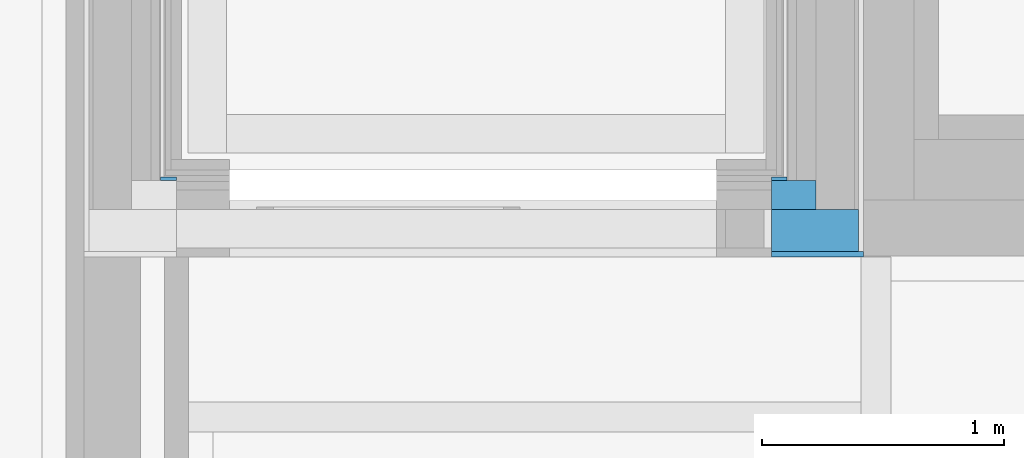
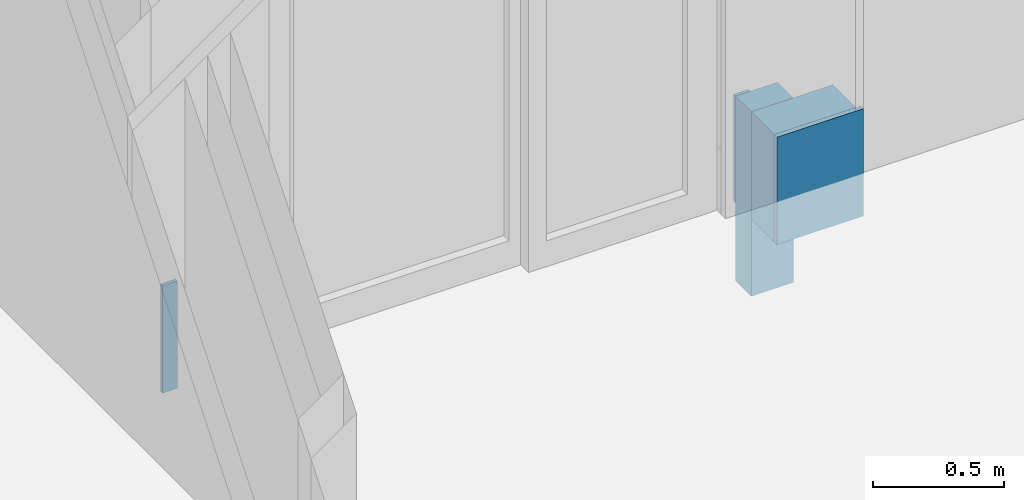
# One storey, part 65 of 207: 5 walls.
"""IFC4 building model written with IfcOpenShell, lengths in metres."""

import ifcopenshell
import ifcopenshell.guid

model = None  # the IFC model being written
_history = None  # IfcOwnerHistory: only IFC2X3 demands one
_inside = {}  # id of a spatial element -> (the spatial element, [elements in it])
_under = {}  # id of a project, library or spatial element -> (it, [spatial elements below it])
_declared = {}  # id of a project -> (the project, [libraries it declares])
_typed = {}  # id of a type object -> (the type object, [elements of that type])
_made_of = {}  # id of a material, layer set ... -> (it, [elements and type objects made of it])


def new_model(schema):
    """Start an empty IFC model of exactly this schema.

    Asked for "IFC4X3", IfcOpenShell would pick the latest addendum, in which some entities
    have other attributes; the version numbers below select the first issue.
    IFC2X3 requires an IfcOwnerHistory on every rooted entity: one is made here for all.
    """
    global model, _history
    if schema == "IFC4X3":
        model = ifcopenshell.file(schema_version=(4, 3, 0, 0))
    else:
        model = ifcopenshell.file(schema=schema)
    _inside.clear()
    _under.clear()
    _declared.clear()
    _typed.clear()
    _made_of.clear()
    _history = None
    if model.schema == "IFC2X3":
        org = make("IfcOrganization", Name="unknown")
        user = make(
            "IfcPersonAndOrganization",
            ThePerson=make("IfcPerson", FamilyName="unknown"),
            TheOrganization=org,
        )
        app = make(
            "IfcApplication",
            ApplicationDeveloper=org,
            Version="unknown",
            ApplicationFullName="unknown",
            ApplicationIdentifier="unknown",
        )
        _history = make(
            "IfcOwnerHistory",
            OwningUser=user,
            OwningApplication=app,
            ChangeAction="ADDED",
            CreationDate=0,
        )
    return model


def make(cls, **values):
    """One entity of the class cls with the attributes given. An attribute that is None is left unset."""
    return model.create_entity(
        cls, **{name: value for name, value in values.items() if value is not None}
    )


def entity(cls, *values):
    """Any entity or typed value of the class cls, its attributes in the order of the schema. None: left unset."""
    e = model.create_entity(cls)
    for i, value in enumerate(values):
        if value is not None:
            e[i] = value
    return e


def rooted(cls, **values):
    """An entity with a GlobalId (a new one), such as an element, a storey or a relation."""
    return make(cls, GlobalId=ifcopenshell.guid.new(), OwnerHistory=_history, **values)


def si_unit(unit_type, name, prefix=None):
    """IfcSIUnit, for example si_unit("LENGTHUNIT", "METRE", prefix="MILLI")."""
    return make("IfcSIUnit", UnitType=unit_type, Prefix=prefix, Name=name)


def converted_unit(unit_type, name, factor, base, dimensions=None, offset=None):
    """IfcConversionBasedUnit, such as the inch: factor (a typed value) times the base unit."""
    return make(
        "IfcConversionBasedUnit"
        if offset is None
        else "IfcConversionBasedUnitWithOffset",
        ConversionOffset=offset,
        Dimensions=None
        if dimensions is None
        else entity("IfcDimensionalExponents", *dimensions),
        UnitType=unit_type,
        Name=name,
        ConversionFactor=make(
            "IfcMeasureWithUnit", ValueComponent=factor, UnitComponent=base
        ),
    )


def derived_unit(unit_type, elements):
    """IfcDerivedUnit: a product of units, each with its exponent."""
    return make(
        "IfcDerivedUnit",
        Elements=[
            make("IfcDerivedUnitElement", Unit=unit, Exponent=power)
            for unit, power in elements
        ],
        UnitType=unit_type,
    )


def assignment(units):
    """IfcUnitAssignment: the units of a project."""
    return None if units is None else make("IfcUnitAssignment", Units=units)


def point(xyz):
    """IfcCartesianPoint."""
    return None if xyz is None else make("IfcCartesianPoint", Coordinates=xyz)


def direction(xyz):
    """IfcDirection."""
    return None if xyz is None else make("IfcDirection", DirectionRatios=xyz)


def frame(location, z_axis=None, x_axis=None):
    """IfcAxis2Placement3D, a coordinate frame: its origin and axes. An axis left out is left unset."""
    return make(
        "IfcAxis2Placement3D",
        Location=point(location),
        Axis=direction(z_axis),
        RefDirection=direction(x_axis),
    )


def frame_2d(location, x_axis=None):
    """IfcAxis2Placement2D, a coordinate frame in the plane: its origin and x axis."""
    return make(
        "IfcAxis2Placement2D", Location=point(location), RefDirection=direction(x_axis)
    )


def origin():
    """The frame at (0, 0, 0) with its axes left unset."""
    return frame((0.0, 0.0, 0.0))


def origin_with_axes():
    """The frame at (0, 0, 0) with the z axis (0, 0, 1) and the x axis (1, 0, 0) written out."""
    return frame((0.0, 0.0, 0.0), z_axis=(0.0, 0.0, 1.0), x_axis=(1.0, 0.0, 0.0))


def place(relative_to, where):
    """IfcLocalPlacement: puts the frame where relative to a parent placement (None: the world)."""
    return make(
        "IfcLocalPlacement", PlacementRelTo=relative_to, RelativePlacement=where
    )


def context(
    kind, dimensions, precision=None, world=None, true_north=None, identifier=None
):
    """IfcGeometricRepresentationContext, for example the 3D "Model" context."""
    return make(
        "IfcGeometricRepresentationContext",
        ContextIdentifier=identifier,
        ContextType=kind,
        CoordinateSpaceDimension=dimensions,
        Precision=precision,
        WorldCoordinateSystem=world,
        TrueNorth=true_north,
    )


def subcontext(parent, identifier, kind, view, scale=None):
    """IfcGeometricRepresentationSubContext, for example "Body" below "Model"."""
    return make(
        "IfcGeometricRepresentationSubContext",
        ContextIdentifier=identifier,
        ContextType=kind,
        ParentContext=parent,
        TargetScale=scale,
        TargetView=view,
    )


def project(units=None, contexts=None):
    """IfcProject with its units and contexts."""
    return rooted(
        "IfcProject",
        Name="project",
        RepresentationContexts=contexts,
        UnitsInContext=assignment(units),
    )


def spatial(cls, under=None, at=None, **own):
    """A site, building, storey or space (cls), placed at a placement, below another one or the project."""
    s = rooted(cls, ObjectPlacement=at, **own)
    if under is not None:
        _under.setdefault(under.id(), (under, []))[1].append(s)
    return s


def profile(cls, at=None, kind="AREA", **sizes):
    """A parametric profile (cls). Its sizes go by their IFC names, for example OverallWidth=200.0."""
    return make(cls, ProfileType=kind, Position=at, **sizes)


def rectangle(**sizes):
    """IfcRectangleProfileDef."""
    return profile("IfcRectangleProfileDef", **sizes)


def extrude(swept, where, along, depth):
    """IfcExtrudedAreaSolid: the profile swept, set in the frame where, extruded along a direction by depth."""
    return make(
        "IfcExtrudedAreaSolid",
        SweptArea=swept,
        Position=where,
        ExtrudedDirection=direction(along),
        Depth=depth,
    )


def shape(context_of_items, identifier, shape_type, items):
    """IfcShapeRepresentation: the items that make up one representation, for example the "Body"."""
    return make(
        "IfcShapeRepresentation",
        ContextOfItems=context_of_items,
        RepresentationIdentifier=identifier,
        RepresentationType=shape_type,
        Items=items,
    )


def material(Name=None, Category=None):
    """IfcMaterial."""
    return make("IfcMaterial", Name=Name, Category=Category)


def made_of(thing, what):
    """Note that an element or type object is made of a material, layer set ...; save() writes the relation."""
    if what is not None:
        _made_of.setdefault(what.id(), (what, []))[1].append(thing)
    return thing


def element(
    cls,
    number,
    at=None,
    inside=None,
    cuts=None,
    type_object=None,
    material=None,
    context=None,
    identifier="Body",
    shape_type=None,
    held_by="IfcProductDefinitionShape",
    body=None,
    shapes=None,
    **own,
):
    """One element of the class cls, such as IfcWall. Its Tag is "e" and its number.

    at: its placement. inside: the storey or other place that contains it. cuts: it is an
    opening in that element (IfcRelVoidsElement). A single representation is given by context,
    identifier, shape_type and body (its items); several are given by shapes. held_by: the class
    of the entity that holds the representations. save() writes the other relations.
    """
    e = rooted(cls, Tag="e%d" % number, ObjectPlacement=at, **own)
    if body is not None:
        shapes = [shape(context, identifier, shape_type, body)]
    if shapes is not None:
        e.Representation = make(held_by, Representations=shapes)
    if inside is not None:
        _inside.setdefault(inside.id(), (inside, []))[1].append(e)
    if cuts is not None:
        rooted(
            "IfcRelVoidsElement", RelatingBuildingElement=cuts, RelatedOpeningElement=e
        )
    if type_object is not None:
        _typed.setdefault(type_object.id(), (type_object, []))[1].append(e)
    return made_of(e, material)


def aggregate(whole, parts):
    """IfcRelAggregates: a whole, such as a stair, and the parts it consists of."""
    return rooted("IfcRelAggregates", RelatingObject=whole, RelatedObjects=parts)


def save(model, path):
    """Write the relations noted so far, then the file.

    IfcRelAggregates (storeys below a building ...), IfcRelContainedInSpatialStructure (elements
    in a storey), IfcRelDefinesByType, IfcRelAssociatesMaterial and IfcRelDeclares: one each for
    every whole, place, type object, material and project.
    """
    for whole, parts in _under.values():
        aggregate(whole, parts)
    for where, things in _inside.values():
        rooted(
            "IfcRelContainedInSpatialStructure",
            RelatedElements=things,
            RelatingStructure=where,
        )
    for kind, things in _typed.values():
        rooted("IfcRelDefinesByType", RelatedObjects=things, RelatingType=kind)
    for what, things in _made_of.values():
        rooted("IfcRelAssociatesMaterial", RelatedObjects=things, RelatingMaterial=what)
    for by, libraries in _declared.values():
        rooted("IfcRelDeclares", RelatingContext=by, RelatedDefinitions=libraries)
    model.write(path)


model = new_model("IFC4")

# Units and contexts
model_context = context("Model", 3, precision=1e-05, world=origin())
body_context = subcontext(model_context, "Body", "Model", "MODEL_VIEW")
ifc_project = project(units=[si_unit("LENGTHUNIT", "METRE"), si_unit("AREAUNIT", "SQUARE_METRE"), si_unit("VOLUMEUNIT", "CUBIC_METRE"), si_unit("MASSUNIT", "GRAM", prefix="KILO"), converted_unit("PLANEANGLEUNIT", "DEGREE", entity("IfcPlaneAngleMeasure", 0.0174532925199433), si_unit("PLANEANGLEUNIT", "RADIAN"), dimensions=[0, 0, 0, 0, 0, 0, 0]), derived_unit("THERMALTRANSMITTANCEUNIT", [(si_unit("POWERUNIT", "WATT"), 1), (si_unit("THERMODYNAMICTEMPERATUREUNIT", "KELVIN"), -1), (si_unit("LENGTHUNIT", "METRE"), -2)]), derived_unit("VOLUMETRICFLOWRATEUNIT", [(si_unit("LENGTHUNIT", "METRE"), 3), (converted_unit("TIMEUNIT", "hour", entity("IfcTimeMeasure", 3600.0), si_unit("TIMEUNIT", "SECOND"), dimensions=[0, 0, 1, 0, 0, 0, 0]), -1), (si_unit("LENGTHUNIT", "METRE"), -1)])], contexts=[model_context])

# Site, building, storey
site_placement = place(None, origin())
site = spatial("IfcSite", under=ifc_project, at=site_placement, Name="Psychiatrie Neubau Wunstorf", CompositionType="ELEMENT")
building_placement = place(site_placement, origin())
building = spatial("IfcBuilding", under=site, at=building_placement, Name="Neubau H2 Stationsgebäude", CompositionType="ELEMENT")
storey_placement = place(building_placement, frame((0.0, 0.0, -0.2)))
storey = spatial("IfcBuildingStorey", under=building, at=storey_placement, Name="H2 Ebene 0", CompositionType="ELEMENT", Elevation=-0.2)

# Walls
ifc_material_1 = material(Name="WA-LB")
wall_1_placement = place(storey_placement, frame((68.205, 25.4300036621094, 0.0)))
element("IfcWall", 1, at=wall_1_placement, inside=storey, material=ifc_material_1, context=body_context, shape_type="SweptSolid", body=[
    extrude(rectangle(XDim=0.065, YDim=0.015, at=frame_2d((0.0325, 0.0075), x_axis=(1.0, 0.0))), origin_with_axes(), (0.0, 0.0, 1.0), 0.5),
])
ifc_material_2 = material(Name="WA-LB")
wall_2_placement = place(storey_placement, frame((70.73, 25.1140036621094, 0.0)))
element("IfcWall", 2, at=wall_2_placement, inside=storey, material=ifc_material_2, context=body_context, shape_type="SweptSolid", body=[
    extrude(rectangle(XDim=0.381, YDim=0.0210000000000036, at=frame_2d((0.1905, 0.0105000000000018), x_axis=(1.0, 0.0))), origin_with_axes(), (0.0, 0.0, 1.0), 0.5),
])
ifc_material_3 = material(Name="WA-STB")
wall_3_placement = place(storey_placement, frame((70.73, 25.1350036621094, 0.0)))
element("IfcWall", 3, at=wall_3_placement, inside=storey, material=ifc_material_3, context=body_context, shape_type="SweptSolid", body=[
    extrude(rectangle(XDim=0.36, YDim=0.175, at=frame_2d((0.18, 0.0875), x_axis=(1.0, 0.0))), origin_with_axes(), (0.0, 0.0, 1.0), 0.5),
])
ifc_material_4 = material(Name="WA-DE")
wall_4_placement = place(storey_placement, frame((70.73, 25.3100036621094, -0.36)))
element("IfcWall", 4, at=wall_4_placement, inside=storey, material=ifc_material_4, context=body_context, shape_type="SweptSolid", body=[
    extrude(rectangle(XDim=0.185, YDim=0.12, at=frame_2d((0.0925, 0.06), x_axis=(1.0, 0.0))), origin_with_axes(), (0.0, 0.0, 1.0), 0.86),
])
ifc_material_5 = material(Name="WA-LB")
wall_5_placement = place(storey_placement, frame((70.73, 25.4300036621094, 0.0)))
element("IfcWall", 5, at=wall_5_placement, inside=storey, material=ifc_material_5, context=body_context, shape_type="SweptSolid", body=[
    extrude(rectangle(XDim=0.065, YDim=0.015, at=frame_2d((0.0325, 0.0075), x_axis=(1.0, 0.0))), origin_with_axes(), (0.0, 0.0, 1.0), 0.5),
])

save(model, "model.ifc")
